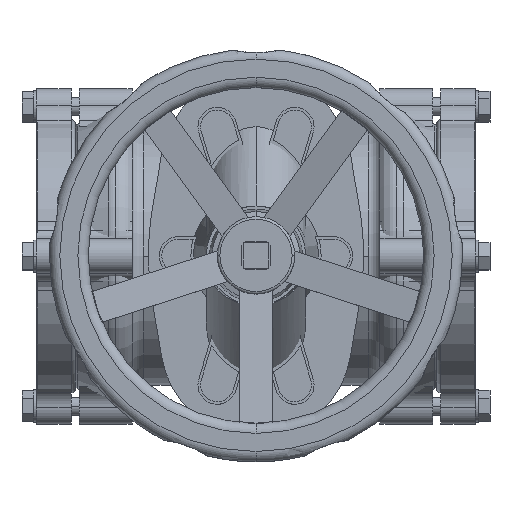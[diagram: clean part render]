
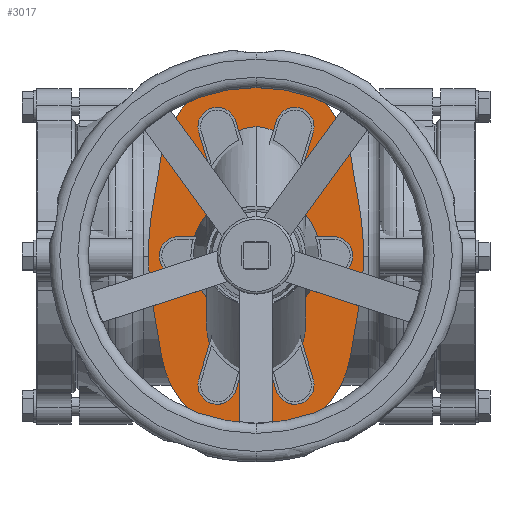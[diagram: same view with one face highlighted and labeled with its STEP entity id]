
A CAD part, top view. The second image highlights one B-rep face of the part: STEP entity #3017.
In plain terms, the highlighted planar face has unit normal (0, 0, 1).
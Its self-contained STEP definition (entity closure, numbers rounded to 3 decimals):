
#3017=ADVANCED_FACE('',(#5711),#5712,.T.);
#5711=FACE_OUTER_BOUND('',#8903,.T.);
#5712=PLANE('',#8904);
#8903=EDGE_LOOP('',(#14420,#14421,#14422,#14423,#14424,#14425,#14426,#14427,#14428,#14429,#14430));
#8904=AXIS2_PLACEMENT_3D('',#14431,#14432,#14433);
#14420=ORIENTED_EDGE('',*,*,#19122,.T.);
#14421=ORIENTED_EDGE('',*,*,#17037,.T.);
#14422=ORIENTED_EDGE('',*,*,#17223,.T.);
#14423=ORIENTED_EDGE('',*,*,#19123,.T.);
#14424=ORIENTED_EDGE('',*,*,#19124,.T.);
#14425=ORIENTED_EDGE('',*,*,#19125,.T.);
#14426=ORIENTED_EDGE('',*,*,#18524,.T.);
#14427=ORIENTED_EDGE('',*,*,#18030,.T.);
#14428=ORIENTED_EDGE('',*,*,#19126,.T.);
#14429=ORIENTED_EDGE('',*,*,#17279,.T.);
#14430=ORIENTED_EDGE('',*,*,#19127,.T.);
#14431=CARTESIAN_POINT('',(49.984,0.505,224.0));
#14432=DIRECTION('',(0.0,0.0,1.0));
#14433=DIRECTION('',(1.0,0.0,0.0));
#17037=EDGE_CURVE('',#19944,#19941,#19945,.T.);
#17223=EDGE_CURVE('',#19941,#20263,#20265,.T.);
#17279=EDGE_CURVE('',#20358,#20356,#20359,.T.);
#18030=EDGE_CURVE('',#21558,#21562,#21564,.T.);
#18524=EDGE_CURVE('',#22304,#21558,#22305,.T.);
#19122=EDGE_CURVE('',#23089,#19944,#23090,.T.);
#19123=EDGE_CURVE('',#20263,#23091,#23092,.T.);
#19124=EDGE_CURVE('',#23091,#23093,#23094,.T.);
#19125=EDGE_CURVE('',#23093,#22304,#23095,.T.);
#19126=EDGE_CURVE('',#21562,#20358,#23096,.T.);
#19127=EDGE_CURVE('',#20356,#23089,#23097,.T.);
#19941=VERTEX_POINT('',#24040);
#19944=VERTEX_POINT('',#24044);
#19945=CIRCLE('',#24045,224.047);
#20263=VERTEX_POINT('',#24455);
#20265=CIRCLE('',#24458,224.047);
#20356=VERTEX_POINT('',#24574);
#20358=VERTEX_POINT('',#24577);
#20359=LINE('',#24578,#24579);
#21558=VERTEX_POINT('',#26142);
#21562=VERTEX_POINT('',#26147);
#21564=CIRCLE('',#26150,222.828);
#22304=VERTEX_POINT('',#27137);
#22305=CIRCLE('',#27138,222.828);
#23089=VERTEX_POINT('',#28245);
#23090=LINE('',#28246,#28247);
#23091=VERTEX_POINT('',#28248);
#23092=LINE('',#28249,#28250);
#23093=VERTEX_POINT('',#28251);
#23094=CIRCLE('',#28252,74.);
#23095=LINE('',#28253,#28254);
#23096=CIRCLE('',#28255,222.828);
#23097=CIRCLE('',#28256,74.);
#24040=CARTESIAN_POINT('',(133.251,0.505,224.0));
#24044=CARTESIAN_POINT('',(130.054,-37.205,224.0));
#24045=AXIS2_PLACEMENT_3D('',#29340,#29341,#29342);
#24455=CARTESIAN_POINT('',(130.054,38.214,224.0));
#24458=AXIS2_PLACEMENT_3D('',#29586,#29587,#29588);
#24574=CARTESIAN_POINT('',(-22.944,-78.845,224.0));
#24577=CARTESIAN_POINT('',(-30.054,-37.205,224.0));
#24578=CARTESIAN_POINT('',(-30.054,-37.205,224.0));
#24579=VECTOR('',#29666,1.0);
#26142=CARTESIAN_POINT('',(-33.235,0.701,224.0));
#26147=CARTESIAN_POINT('',(-33.232,-0.394,224.0));
#26150=AXIS2_PLACEMENT_3D('',#30667,#30668,#30669);
#27137=CARTESIAN_POINT('',(-30.056,38.206,224.0));
#27138=AXIS2_PLACEMENT_3D('',#31332,#31333,#31334);
#28245=CARTESIAN_POINT('',(122.944,-78.845,224.0));
#28246=CARTESIAN_POINT('',(122.944,-78.845,224.0));
#28247=VECTOR('',#32025,1.0);
#28248=CARTESIAN_POINT('',(122.944,79.855,224.0));
#28249=CARTESIAN_POINT('',(130.054,38.214,224.0));
#28250=VECTOR('',#32026,1.0);
#28251=CARTESIAN_POINT('',(-22.944,79.855,224.0));
#28252=AXIS2_PLACEMENT_3D('',#32027,#32028,#32029);
#28253=CARTESIAN_POINT('',(-22.944,79.855,224.0));
#28254=VECTOR('',#32030,1.0);
#28255=AXIS2_PLACEMENT_3D('',#32031,#32032,#32033);
#28256=AXIS2_PLACEMENT_3D('',#32034,#32035,#32036);
#29340=CARTESIAN_POINT('',(-90.796,0.505,224.0));
#29341=DIRECTION('',(0.0,0.0,1.0));
#29342=DIRECTION('',(1.0,0.0,0.0));
#29586=CARTESIAN_POINT('',(-90.796,0.505,224.0));
#29587=DIRECTION('',(0.0,0.0,1.0));
#29588=DIRECTION('',(1.0,0.0,0.0));
#29666=DIRECTION('',(0.168,-0.986,0.0));
#30667=CARTESIAN_POINT('',(189.593,0.701,224.0));
#30668=DIRECTION('',(0.0,0.0,1.0));
#30669=DIRECTION('',(1.0,0.0,0.0));
#31332=CARTESIAN_POINT('',(189.593,0.701,224.0));
#31333=DIRECTION('',(0.0,0.0,1.0));
#31334=DIRECTION('',(1.0,0.0,0.0));
#32025=DIRECTION('',(0.168,0.986,0.0));
#32026=DIRECTION('',(-0.168,0.986,0.0));
#32027=CARTESIAN_POINT('',(50.,67.4,224.0));
#32028=DIRECTION('',(0.0,0.0,1.0));
#32029=DIRECTION('',(1.0,0.0,0.0));
#32030=DIRECTION('',(-0.168,-0.986,0.0));
#32031=CARTESIAN_POINT('',(189.595,0.299,224.0));
#32032=DIRECTION('',(0.0,0.0,1.0));
#32033=DIRECTION('',(1.0,0.0,0.0));
#32034=CARTESIAN_POINT('',(50.,-66.39,224.0));
#32035=DIRECTION('',(0.0,0.0,1.0));
#32036=DIRECTION('',(1.0,0.0,0.0));
